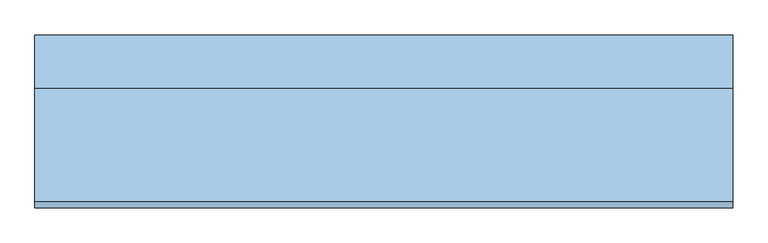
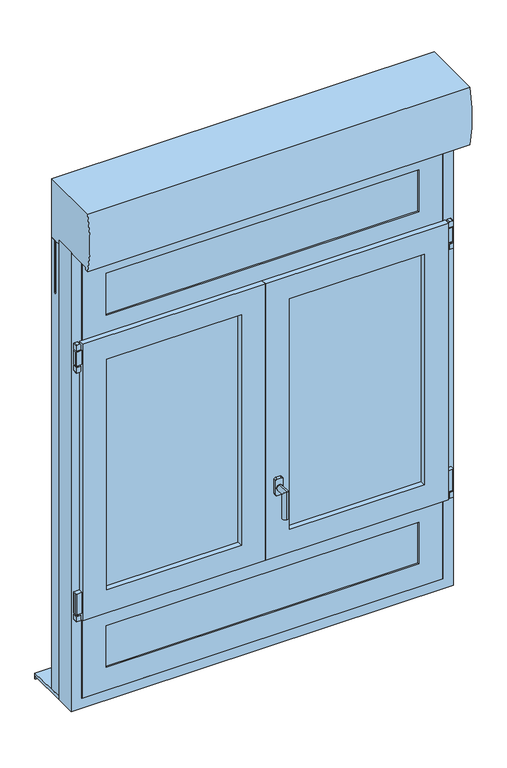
"""IFC4 building model written with IfcOpenShell, lengths in millimetres: window geometry, 11. OF2 ENR + 2 Fixes en B et en H PVC-ALU : OF2 130X165 (LXH) cm + 2 Fixes en B et H."""

from ifc_helpers import new_model, si_unit, point, frame, frame_2d, origin, place, context, project, spatial, polyline, circle_curve, ellipse_curve, trimmed, segment, composite_curve, outline, extrude, faceted_brep, source, transform, mapped, element, save
from ifc_brep_helpers import plane_surface, cylinder_surface, advanced_brep


def window_0c8a83d3(model_context):
    return source(origin(), model_context, "Body", "SolidModel", [
        extrude(outline(composite_curve([segment(polyline([(2101.4458412, 626.56), (2101.4458412, 641.56), (2119.4522243, 641.56)]), True, "CONTINUOUS"), segment(trimmed(circle_curve(frame_2d((2119.4522243, 639.5663831)), 1.9936169), [point((2119.4522243, 641.56))], [point((2121.4458412, 639.5663831))], False, "CARTESIAN"), True, "CONTINUOUS"), segment(polyline([(2121.4458412, 639.5663831), (2121.4458412, 628.5276754)]), True, "CONTINUOUS"), segment(trimmed(circle_curve(frame_2d((2119.4781657, 628.5276754)), 1.9676754), [point((2121.4458412, 628.5276754))], [point((2119.4781657, 626.56))], False, "CARTESIAN"), True, "CONTINUOUS"), segment(polyline([(2119.4781657, 626.56), (2101.4458412, 626.56)]), True, "CONTINUOUS")], self_intersect=False)), frame((0.0, -115.0338923, 0.0), z_axis=(0.0, 1.0, 0.0), x_axis=(0.0, 0.0, 1.0)), (0.0, 0.0, 1.0), 15.0),
        extrude(outline(composite_curve([segment(trimmed(circle_curve(frame_2d((634.2805562, -107.5434807)), 5.0), [point((629.2805562, -107.5434807))], [point((639.2805562, -107.5434807))], False, "CARTESIAN"), True, "CONTINUOUS"), segment(trimmed(circle_curve(frame_2d((634.2805562, -107.5434807)), 5.0), [point((639.2805562, -107.5434807))], [point((629.2805562, -107.5434807))], False, "CARTESIAN"), True, "CONTINUOUS")], self_intersect=False)), frame((0.0, 0.0, 2041.4458412), z_axis=(0.0, 0.0, 1.0), x_axis=(1.0, 0.0, 0.0)), (0.0, 0.0, 1.0), 60.0),
        extrude(outline(composite_curve([segment(polyline([(621.56, -100.0434807), (639.6018237, -100.0434807)]), True, "CONTINUOUS"), segment(trimmed(circle_curve(frame_2d((639.6018237, -102.001657)), 1.9581763), [point((639.6018237, -100.0434807))], [point((641.56, -102.001657))], False, "CARTESIAN"), True, "CONTINUOUS"), segment(polyline([(641.56, -102.001657), (641.56, -113.0253033)]), True, "CONTINUOUS"), segment(trimmed(circle_curve(frame_2d((639.5418225, -113.0253033)), 2.0181775), [point((641.56, -113.0253033))], [point((639.5418225, -115.0434807))], False, "CARTESIAN"), True, "CONTINUOUS"), segment(polyline([(639.5418225, -115.0434807), (621.56, -115.0434807), (621.56, -100.0434807)]), True, "CONTINUOUS")], self_intersect=False)), frame((0.0, 0.0, 2047.172303), z_axis=(0.0, 0.0, 1.0), x_axis=(1.0, 0.0, 0.0)), (0.0, 0.0, 1.0), 50.0),
        extrude(outline(composite_curve([segment(polyline([(2042.172303, 641.7805562), (2042.172303, 626.7805562), (2024.1815527, 626.7805562)]), True, "CONTINUOUS"), segment(trimmed(circle_curve(frame_2d((2024.1815527, 628.7898059)), 2.0092498), [point((2024.1815527, 626.7805562))], [point((2022.172303, 628.7898059))], False, "CARTESIAN"), True, "CONTINUOUS"), segment(polyline([(2022.172303, 628.7898059), (2022.172303, 640.1303507)]), True, "CONTINUOUS"), segment(trimmed(circle_curve(frame_2d((2024.1459724, 639.8068867)), 2.0), [point((2022.172303, 640.1303507))], [point((2023.8225084, 641.7805562))], False, "CARTESIAN"), True, "CONTINUOUS"), segment(polyline([(2023.8225084, 641.7805562), (2042.172303, 641.7805562)]), True, "CONTINUOUS")], self_intersect=False)), frame((0.0, -115.0338923, 0.0), z_axis=(0.0, 1.0, 0.0), x_axis=(0.0, 0.0, 1.0)), (0.0, 0.0, 1.0), 15.0),
        extrude(outline(composite_curve([segment(trimmed(circle_curve(frame_2d((634.2805562, -107.5434807)), 5.0), [point((629.2805562, -107.5434807))], [point((639.2805562, -107.5434807))], False, "CARTESIAN"), True, "CONTINUOUS"), segment(trimmed(circle_curve(frame_2d((634.2805562, -107.5434807)), 5.0), [point((639.2805562, -107.5434807))], [point((629.2805562, -107.5434807))], False, "CARTESIAN"), True, "CONTINUOUS")], self_intersect=False)), frame((0.0, 0.0, 1148.448), z_axis=(0.0, 0.0, 1.0), x_axis=(1.0, 0.0, 0.0)), (0.0, 0.0, 1.0), 5.0),
        extrude(outline(composite_curve([segment(polyline([(1148.448, 641.7805562), (1148.448, 626.7805562), (1130.4572498, 626.7805562)]), True, "CONTINUOUS"), segment(trimmed(circle_curve(frame_2d((1130.4572498, 628.7898059)), 2.0092498), [point((1130.4572498, 626.7805562))], [point((1128.448, 628.7898059))], False, "CARTESIAN"), True, "CONTINUOUS"), segment(polyline([(1128.448, 628.7898059), (1128.448, 640.1303507)]), True, "CONTINUOUS"), segment(trimmed(circle_curve(frame_2d((1130.4216694, 639.8068867)), 2.0), [point((1128.448, 640.1303507))], [point((1130.0982054, 641.7805562))], False, "CARTESIAN"), True, "CONTINUOUS"), segment(polyline([(1130.0982054, 641.7805562), (1148.448, 641.7805562)]), True, "CONTINUOUS")], self_intersect=False)), frame((0.0, -115.0338923, 0.0), z_axis=(0.0, 1.0, 0.0), x_axis=(0.0, 0.0, 1.0)), (0.0, 0.0, 1.0), 15.0),
        extrude(outline(composite_curve([segment(polyline([(621.56, -100.0434807), (639.6018237, -100.0434807)]), True, "CONTINUOUS"), segment(trimmed(circle_curve(frame_2d((639.6018237, -102.001657)), 1.9581763), [point((639.6018237, -100.0434807))], [point((641.56, -102.001657))], False, "CARTESIAN"), True, "CONTINUOUS"), segment(polyline([(641.56, -102.001657), (641.56, -113.0253033)]), True, "CONTINUOUS"), segment(trimmed(circle_curve(frame_2d((639.5418225, -113.0253033)), 2.0181775), [point((641.56, -113.0253033))], [point((639.5418225, -115.0434807))], False, "CARTESIAN"), True, "CONTINUOUS"), segment(polyline([(639.5418225, -115.0434807), (621.56, -115.0434807), (621.56, -100.0434807)]), True, "CONTINUOUS")], self_intersect=False)), frame((0.0, 0.0, 1153.448), z_axis=(0.0, 0.0, 1.0), x_axis=(1.0, 0.0, 0.0)), (0.0, 0.0, 1.0), 75.0),
        extrude(outline(composite_curve([segment(polyline([(2101.4458412, -626.552), (2119.4781657, -626.552)]), True, "CONTINUOUS"), segment(trimmed(circle_curve(frame_2d((2119.4781657, -628.5196754)), 1.9676754), [point((2119.4781657, -626.552))], [point((2121.4458412, -628.5196754))], False, "CARTESIAN"), True, "CONTINUOUS"), segment(polyline([(2121.4458412, -628.5196754), (2121.4458412, -639.5583831)]), True, "CONTINUOUS"), segment(trimmed(circle_curve(frame_2d((2119.4522243, -639.5583831)), 1.9936169), [point((2121.4458412, -639.5583831))], [point((2119.4522243, -641.552))], False, "CARTESIAN"), True, "CONTINUOUS"), segment(polyline([(2119.4522243, -641.552), (2101.4458412, -641.552), (2101.4458412, -626.552)]), True, "CONTINUOUS")], self_intersect=False)), frame((0.0, -115.0338923, 0.0), z_axis=(0.0, 1.0, 0.0), x_axis=(0.0, 0.0, 1.0)), (0.0, 0.0, 1.0), 15.0),
        extrude(outline(composite_curve([segment(trimmed(circle_curve(frame_2d((-634.2725562, -107.5434807)), 5.0), [point((-629.2725562, -107.5434807))], [point((-639.2725562, -107.5434807))], False, "CARTESIAN"), True, "CONTINUOUS"), segment(trimmed(circle_curve(frame_2d((-634.2725562, -107.5434807)), 5.0), [point((-639.2725562, -107.5434807))], [point((-629.2725562, -107.5434807))], False, "CARTESIAN"), True, "CONTINUOUS")], self_intersect=False)), frame((0.0, 0.0, 2041.4458412), z_axis=(0.0, 0.0, 1.0), x_axis=(1.0, 0.0, 0.0)), (0.0, 0.0, 1.0), 60.0),
        extrude(outline(composite_curve([segment(polyline([(-621.552, -100.0434807), (-621.552, -115.0434807), (-639.5338225, -115.0434807)]), True, "CONTINUOUS"), segment(trimmed(circle_curve(frame_2d((-639.5338225, -113.0253033)), 2.0181775), [point((-639.5338225, -115.0434807))], [point((-641.552, -113.0253033))], False, "CARTESIAN"), True, "CONTINUOUS"), segment(polyline([(-641.552, -113.0253033), (-641.552, -102.001657)]), True, "CONTINUOUS"), segment(trimmed(circle_curve(frame_2d((-639.5938237, -102.001657)), 1.9581763), [point((-641.552, -102.001657))], [point((-639.5938237, -100.0434807))], False, "CARTESIAN"), True, "CONTINUOUS"), segment(polyline([(-639.5938237, -100.0434807), (-621.552, -100.0434807)]), True, "CONTINUOUS")], self_intersect=False)), frame((0.0, 0.0, 2047.172303), z_axis=(0.0, 0.0, 1.0), x_axis=(1.0, 0.0, 0.0)), (0.0, 0.0, 1.0), 50.0),
        extrude(outline(composite_curve([segment(polyline([(2042.172303, -641.7725562), (2023.8225084, -641.7725562)]), True, "CONTINUOUS"), segment(trimmed(circle_curve(frame_2d((2024.1459724, -639.7988867)), 2.0), [point((2023.8225084, -641.7725562))], [point((2022.172303, -640.1223507))], False, "CARTESIAN"), True, "CONTINUOUS"), segment(polyline([(2022.172303, -640.1223507), (2022.172303, -628.7818059)]), True, "CONTINUOUS"), segment(trimmed(circle_curve(frame_2d((2024.1815527, -628.7818059)), 2.0092498), [point((2022.172303, -628.7818059))], [point((2024.1815527, -626.7725562))], False, "CARTESIAN"), True, "CONTINUOUS"), segment(polyline([(2024.1815527, -626.7725562), (2042.172303, -626.7725562), (2042.172303, -641.7725562)]), True, "CONTINUOUS")], self_intersect=False)), frame((0.0, -115.0338923, 0.0), z_axis=(0.0, 1.0, 0.0), x_axis=(0.0, 0.0, 1.0)), (0.0, 0.0, 1.0), 15.0),
        extrude(outline(composite_curve([segment(trimmed(circle_curve(frame_2d((-634.2725562, -107.5434807)), 5.0), [point((-629.2725562, -107.5434807))], [point((-639.2725562, -107.5434807))], False, "CARTESIAN"), True, "CONTINUOUS"), segment(trimmed(circle_curve(frame_2d((-634.2725562, -107.5434807)), 5.0), [point((-639.2725562, -107.5434807))], [point((-629.2725562, -107.5434807))], False, "CARTESIAN"), True, "CONTINUOUS")], self_intersect=False)), frame((0.0, 0.0, 1148.448), z_axis=(0.0, 0.0, 1.0), x_axis=(1.0, 0.0, 0.0)), (0.0, 0.0, 1.0), 5.0),
        extrude(outline(composite_curve([segment(polyline([(1148.448, -641.7725562), (1130.0982054, -641.7725562)]), True, "CONTINUOUS"), segment(trimmed(circle_curve(frame_2d((1130.4216694, -639.7988867)), 2.0), [point((1130.0982054, -641.7725562))], [point((1128.448, -640.1223507))], False, "CARTESIAN"), True, "CONTINUOUS"), segment(polyline([(1128.448, -640.1223507), (1128.448, -628.7818059)]), True, "CONTINUOUS"), segment(trimmed(circle_curve(frame_2d((1130.4572498, -628.7818059)), 2.0092498), [point((1128.448, -628.7818059))], [point((1130.4572498, -626.7725562))], False, "CARTESIAN"), True, "CONTINUOUS"), segment(polyline([(1130.4572498, -626.7725562), (1148.448, -626.7725562), (1148.448, -641.7725562)]), True, "CONTINUOUS")], self_intersect=False)), frame((0.0, -115.0338923, 0.0), z_axis=(0.0, 1.0, 0.0), x_axis=(0.0, 0.0, 1.0)), (0.0, 0.0, 1.0), 15.0),
        extrude(outline(composite_curve([segment(polyline([(-621.552, -100.0434807), (-621.552, -115.0434807), (-639.5338225, -115.0434807)]), True, "CONTINUOUS"), segment(trimmed(circle_curve(frame_2d((-639.5338225, -113.0253033)), 2.0181775), [point((-639.5338225, -115.0434807))], [point((-641.552, -113.0253033))], False, "CARTESIAN"), True, "CONTINUOUS"), segment(polyline([(-641.552, -113.0253033), (-641.552, -102.001657)]), True, "CONTINUOUS"), segment(trimmed(circle_curve(frame_2d((-639.5938237, -102.001657)), 1.9581763), [point((-641.552, -102.001657))], [point((-639.5938237, -100.0434807))], False, "CARTESIAN"), True, "CONTINUOUS"), segment(polyline([(-639.5938237, -100.0434807), (-621.552, -100.0434807)]), True, "CONTINUOUS")], self_intersect=False)), frame((0.0, 0.0, 1153.448), z_axis=(0.0, 0.0, 1.0), x_axis=(1.0, 0.0, 0.0)), (0.0, 0.0, 1.0), 75.0),
        faceted_brep([(649.992, -28.9, 2450.0), (649.992, -100.02, 2450.0), (649.992, -100.02, 800.0), (649.992, -28.9, 800.0), (-650.008, -100.02, 2450.0), (-650.008, -100.02, 800.0), (613.416, -100.02, 836.576), (-613.432, -100.02, 836.576), (-613.432, -100.02, 2413.424), (613.416, -100.02, 2413.424), (-650.008, -28.9, 800.0), (-650.008, -28.9, 2450.0), (592.0903858, -28.9, 2392.0983858), (-592.1063858, -28.9, 2392.0983858), (-592.1063858, -28.9, 857.9016142), (592.0903858, -28.9, 857.9016142), (613.416, -44.648, 2413.424), (613.416, -44.648, 836.576), (-613.432, -44.648, 2413.424), (-613.432, -44.648, 836.576), (592.0903858, -44.648, 857.9016142), (-592.1063858, -44.648, 857.9016142), (-592.1063858, -44.648, 2392.0983858), (592.0903858, -44.648, 2392.0983858)], [[[0, 1, 2, 3]], [[1, 4, 5, 2], [6, 7, 8, 9]], [[3, 2, 5, 10]], [[3, 10, 11, 0], [12, 13, 14, 15]], [[9, 16, 17, 6]], [[16, 18, 19, 17], [20, 21, 22, 23]], [[6, 17, 19, 7]], [[23, 12, 15, 20]], [[20, 15, 14, 21]], [[10, 5, 4, 11]], [[7, 19, 18, 8]], [[21, 14, 13, 22]], [[11, 4, 1, 0]], [[8, 18, 16, 9]], [[22, 13, 12, 23]]]),
        faceted_brep([(-650.0, -100.02, 2450.0), (-650.0, -28.9, 2450.0), (-650.0, -28.9, 800.0), (-650.0, -100.02, 800.0), (650.0, -28.9, 2450.0), (650.0, -28.9, 800.0), (-592.0983858, -28.9, 857.9016142), (592.0983858, -28.9, 857.9016142), (592.0983858, -28.9, 2392.0983858), (-592.0983858, -28.9, 2392.0983858), (650.0, -100.02, 800.0), (650.0, -100.02, 2450.0), (-613.424, -100.02, 2413.424), (613.424, -100.02, 2413.424), (613.424, -100.02, 836.576), (-613.424, -100.02, 836.576), (-613.424, -44.648, 2413.424), (-613.424, -44.648, 836.576), (613.424, -44.648, 836.576), (613.424, -44.648, 2413.424), (-592.0983858, -44.648, 2392.0983858), (592.0983858, -44.648, 2392.0983858), (592.0983858, -44.648, 857.9016142), (-592.0983858, -44.648, 857.9016142)], [[[0, 1, 2, 3]], [[1, 4, 5, 2], [6, 7, 8, 9]], [[3, 2, 5, 10]], [[3, 10, 11, 0], [12, 13, 14, 15]], [[16, 12, 15, 17]], [[17, 15, 14, 18]], [[17, 18, 19, 16], [20, 21, 22, 23]], [[9, 20, 23, 6]], [[6, 23, 22, 7]], [[10, 5, 4, 11]], [[18, 14, 13, 19]], [[7, 22, 21, 8]], [[11, 4, 1, 0]], [[19, 13, 12, 16]], [[8, 21, 20, 9]]]),
        extrude(outline(composite_curve([segment(polyline([(-186.3991192, 2440.3409737), (-197.3316724, 2440.3409737)]), True, "CONTINUOUS"), segment(trimmed(circle_curve(frame_2d((189.1050523, 2543.6204869)), 400.0), [point((-197.3316724, 2440.3409737))], [point((-197.3316724, 2646.9))], False, "CARTESIAN"), True, "CONTINUOUS"), segment(polyline([(-197.3316724, 2646.9), (13.0999994, 2646.9), (13.0999994, 2436.0216226), (-4.9499979, 2436.0216226), (-4.9499979, 2434.2216225), (-2.7215215, 2434.2216225), (-2.7215215, 2409.9791617), (-4.9499979, 2409.9791617), (-4.9499979, 2408.1791616), (-2.7215215, 2408.1791616), (-2.7215215, 2383.9367008), (-4.9499979, 2383.9367008), (-4.9499979, 2382.1367006), (-2.7215215, 2382.1367006), (-2.7215215, 2357.8942398), (-4.9499979, 2357.8942398), (-4.9499979, 2356.0942397), (-2.7215215, 2356.0942397), (-2.7215215, 2331.8517789), (-4.9499979, 2331.8517789), (-4.9499979, 2330.0517788), (-2.7215215, 2330.0517788), (-2.7215215, 2305.809318), (-4.9499979, 2305.809318), (-4.9499979, 2304.0093179), (-2.7215215, 2304.0093179), (-2.7215215, 2279.7668571), (-4.9499979, 2279.7668571), (-4.9499979, 2277.966857), (-2.7215215, 2277.966857), (-2.7215215, 2253.7243961), (-4.9499979, 2253.7243961), (-4.9499979, 2251.9243963), (-3.044091, 2251.9243963), (-3.044091, 2248.977424), (-6.4, 2245.6232688), (-9.8999992, 2248.9774251), (-9.8999992, 2251.9243963), (-7.7499979, 2251.9243963), (-7.7499979, 2253.7243961), (-9.9999979, 2253.7243961), (-9.9999979, 2277.9668572), (-7.7499979, 2277.9668572), (-7.7499979, 2279.7668571), (-9.9999979, 2279.7668571), (-9.9999979, 2304.0093181), (-7.7499979, 2304.0093181), (-7.7499979, 2305.809318), (-9.9999979, 2305.809318), (-9.9999979, 2330.051779), (-7.7499979, 2330.051779), (-7.7499979, 2331.8517789), (-9.9999979, 2331.8517789), (-9.9999979, 2356.09424), (-7.7499979, 2356.09424), (-7.7499979, 2357.8942398), (-9.9999979, 2357.8942398), (-9.9999979, 2382.1367009), (-7.7499979, 2382.1367009), (-7.7499979, 2383.9367008), (-9.9999979, 2383.9367008), (-9.9999979, 2408.1791618), (-7.7499979, 2408.1791618), (-7.7499979, 2409.9791617), (-9.9999979, 2409.9791617), (-9.9999979, 2434.2216227), (-7.7499979, 2434.2216227), (-7.7499979, 2436.0216226), (-28.9, 2436.0216226), (-28.9, 2450.0), (-186.3991192, 2450.0), (-186.3991192, 2440.3409737)]), True, "CONTINUOUS")], self_intersect=False)), frame((-650.008, 0.0, 0.0), z_axis=(1.0, 0.0, 0.0), x_axis=(0.0, 1.0, 0.0)), (0.0, 0.0, 1.0), 1300.008),
        advanced_brep(
        [(41.6731873, -129.3239543, 1392.2518349), (41.6731873, -129.3239543, 1372.2518349), (41.6731873, -133.0531938, 1372.2518349), (41.6731873, -133.0531938, 1392.2518349), (41.6731873, -173.0531938, 1392.2518349), (41.6731873, -153.0531938, 1372.2518349), (41.6731873, -173.0531938, 1292.2518349), (41.6731873, -153.0531938, 1292.2518349)],
        [
            (0, 1, circle_curve(frame((41.6731873, -129.3239543, 1382.2518349), z_axis=(0.0, 1.0, 0.0), x_axis=(0.0, 0.0, -1.0)), 10.0)),
            (1, 0, circle_curve(frame((41.6731873, -129.3239543, 1382.2518349), z_axis=(0.0, 1.0, 0.0), x_axis=(0.0, 0.0, -1.0)), 10.0)),
            (2, 3, circle_curve(frame((41.6731873, -133.0531938, 1382.2518349), z_axis=(0.0, -1.0, 0.0), x_axis=(0.0, 0.0, -1.0)), 10.0)),
            (3, 4),
            (4, 5, ellipse_curve(frame((41.6731873, -163.0531938, 1382.2518349), z_axis=(0.0, 0.7071067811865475, 0.7071067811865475), x_axis=(0.0, 0.7071067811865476, -0.7071067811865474)), 14.1421356, 10.0)),
            (5, 2),
            (3, 2, circle_curve(frame((41.6731873, -133.0531938, 1382.2518349), z_axis=(0.0, -1.0, 0.0), x_axis=(0.0, 0.0, -1.0)), 10.0)),
            (5, 4, ellipse_curve(frame((41.6731873, -163.0531938, 1382.2518349), z_axis=(0.0, 0.7071067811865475, 0.7071067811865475), x_axis=(0.0, 0.7071067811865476, -0.7071067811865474)), 14.1421356, 10.0)),
            (6, 7, circle_curve(frame((41.6731873, -163.0531938, 1292.2518349), z_axis=(0.0, 0.0, -1.0), x_axis=(0.0, 1.0, 0.0)), 10.0)),
            (7, 6, circle_curve(frame((41.6731873, -163.0531938, 1292.2518349), z_axis=(0.0, 0.0, -1.0), x_axis=(0.0, 1.0, 0.0)), 10.0)),
            (4, 6),
            (7, 5),
            (0, 3),
            (2, 1),
        ],
        [
            plane_surface(frame((53.896, -129.3239543, 1382.2518349), z_axis=(0.0, 1.0, 0.0), x_axis=(1.0, 0.0, 0.0))),
            cylinder_surface(frame((41.6731873, -133.0531938, 1382.2518349), z_axis=(0.0, 1.0, 0.0), x_axis=(0.0, 0.0, -1.0)), 10.0),
            plane_surface(frame((53.896, -163.0531938, 1292.2518349), z_axis=(0.0, 0.0, -1.0), x_axis=(1.0, 0.0, 0.0))),
            cylinder_surface(frame((41.6731873, -163.0531938, 1382.2518349), z_axis=(0.0, 0.0, 1.0), x_axis=(0.0, 1.0, 0.0)), 10.0),
            cylinder_surface(frame((41.6731873, -129.3239543, 1382.2518349), z_axis=(0.0, 1.0, 0.0), x_axis=(0.0, 0.0, -1.0)), 10.0),
        ],
        [
            (0, [[1, 2]]),
            (1, [[3, 4, 5, 6]]),
            (1, [[7, -6, 8, -4]]),
            (2, [[9, 10]]),
            (3, [[-5, 11, -10, 12]]),
            (3, [[-8, -12, -9, -11]]),
            (4, [[-1, 13, -3, 14]]),
            (4, [[-2, -14, -7, -13]]),
        ],
    ),
        extrude(outline(composite_curve([segment(polyline([(1414.448, 48.896), (1414.448, 33.896)]), True, "CONTINUOUS"), segment(trimmed(circle_curve(frame_2d((1409.448, 33.896)), 5.0), [point((1414.448, 33.896))], [point((1409.448, 28.896))], False, "CARTESIAN"), True, "CONTINUOUS"), segment(polyline([(1409.448, 28.896), (1359.448, 28.896)]), True, "CONTINUOUS"), segment(trimmed(circle_curve(frame_2d((1359.448, 33.896)), 5.0), [point((1359.448, 28.896))], [point((1354.448, 33.896))], False, "CARTESIAN"), True, "CONTINUOUS"), segment(polyline([(1354.448, 33.896), (1354.448, 48.896)]), True, "CONTINUOUS"), segment(trimmed(circle_curve(frame_2d((1359.448, 48.896)), 5.0), [point((1354.448, 48.896))], [point((1359.448, 53.896))], False, "CARTESIAN"), True, "CONTINUOUS"), segment(polyline([(1359.448, 53.896), (1409.448, 53.896)]), True, "CONTINUOUS"), segment(trimmed(circle_curve(frame_2d((1409.448, 48.896)), 5.0), [point((1409.448, 53.896))], [point((1414.448, 48.896))], False, "CARTESIAN"), True, "CONTINUOUS")], self_intersect=False)), frame((0.0, -129.3239543, 0.0), z_axis=(0.0, 1.0, 0.0), x_axis=(0.0, 0.0, 1.0)), (0.0, 0.0, 1.0), 10.0),
        extrude(outline(polyline([(-28.9, 800.0), (-28.9, 812.9639252), (113.0, 809.77529), (113.0, 790.0), (110.0, 790.0), (110.0, 800.0), (-28.9, 800.0)])), frame((-650.0, 0.0, 0.0), z_axis=(1.0, 0.0, 0.0), x_axis=(0.0, 1.0, 0.0)), (0.0, 0.0, 1.0), 1300.0),
        extrude(outline(polyline([(-649.008, -28.9), (-650.008, -28.9), (-650.008, 13.1), (-649.008, 13.1), (-649.008, 2.1), (-629.008, 2.1), (-629.008, -0.9), (-649.008, -0.9), (-649.008, -11.9), (-629.008, -11.9), (-629.008, -14.9), (-649.008, -14.9), (-649.008, -28.9)])), frame((0.0, 0.0, 812.9639252), z_axis=(0.0, 0.0, 1.0), x_axis=(1.0, 0.0, 0.0)), (0.0, 0.0, 1.0), 1623.1),
        extrude(outline(polyline([(649.0, -28.9), (649.0, -14.9), (629.0, -14.9), (629.0, -11.9), (649.0, -11.9), (649.0, -0.9), (629.0, -0.9), (629.0, 2.1), (649.0, 2.1), (649.0, 13.1), (650.0, 13.1), (650.0, -28.9), (649.0, -28.9)])), frame((0.0, 0.0, 812.9639252), z_axis=(0.0, 0.0, 1.0), x_axis=(1.0, 0.0, 0.0)), (0.0, 0.0, 1.0), 1623.1),
        extrude(outline(polyline([(545.3, -91.36618), (545.3, -95.36618), (-545.3, -95.36618), (-545.3, -91.36618), (545.3, -91.36618)])), frame((0.0, 0.0, 904.6913195), z_axis=(0.0, 0.0, 1.0), x_axis=(1.0, 0.0, 0.0)), (0.0, 0.0, 1.0), 177.9669753),
        extrude(outline(polyline([(545.3, -67.36618), (545.3, -71.36618), (-545.3, -71.36618), (-545.3, -67.36618), (545.3, -67.36618)])), frame((0.0, 0.0, 904.6913195), z_axis=(0.0, 0.0, 1.0), x_axis=(1.0, 0.0, 0.0)), (0.0, 0.0, 1.0), 177.9669753),
        faceted_brep([(-613.5086805, -100.96618, 836.4913195), (-613.5086805, -44.56618, 836.4913195), (613.5086805, -44.56618, 836.4913195), (613.5086805, -100.96618, 836.4913195), (613.5086805, -44.56618, 1150.8582947), (613.5086805, -100.96618, 1150.8582947), (-613.5086805, -44.56618, 1150.8582947), (531.4086805, -44.56618, 1068.7582947), (-531.4086805, -44.56618, 1068.7582947), (-531.4086805, -44.56618, 918.5913195), (531.4086805, -44.56618, 918.5913195), (-613.5086805, -100.96618, 1150.8582947), (531.4086805, -100.96618, 918.5913195), (-531.4086805, -100.96618, 918.5913195), (-531.4086805, -100.96618, 1068.7582947), (531.4086805, -100.96618, 1068.7582947), (-531.4086805, -95.36618, 918.5913195), (531.4086805, -95.36618, 918.5913195), (531.4086805, -95.36618, 1068.7582947), (545.3086805, -95.36618, 904.6913195), (-545.3086805, -95.36618, 904.6913195), (-545.3086805, -95.36618, 1082.6582947), (545.3086805, -95.36618, 1082.6582947), (-531.4086805, -95.36618, 1068.7582947), (-545.3086805, -91.36618, 904.6913195), (545.3086805, -91.36618, 904.6913195), (545.3086805, -91.36618, 1082.6582947), (-545.3086805, -91.36618, 1082.6582947), (531.4086805, -91.36618, 918.5913195), (-531.4086805, -91.36618, 918.5913195), (-531.4086805, -91.36618, 1068.7582947), (531.4086805, -91.36618, 1068.7582947), (-531.4086805, -71.36618, 918.5913195), (531.4086805, -71.36618, 918.5913195), (531.4086805, -71.36618, 1068.7582947), (545.3086805, -71.36618, 904.6913195), (-545.3086805, -71.36618, 904.6913195), (-545.3086805, -71.36618, 1082.6582947), (545.3086805, -71.36618, 1082.6582947), (-531.4086805, -71.36618, 1068.7582947), (-545.3086805, -67.36618, 904.6913195), (545.3086805, -67.36618, 904.6913195), (545.3086805, -67.36618, 1082.6582947), (-545.3086805, -67.36618, 1082.6582947), (531.4086805, -67.36618, 918.5913195), (-531.4086805, -67.36618, 918.5913195), (-531.4086805, -67.36618, 1068.7582947), (531.4086805, -67.36618, 1068.7582947)], [[[0, 1, 2, 3]], [[3, 2, 4, 5]], [[2, 1, 6, 4], [7, 8, 9, 10]], [[5, 11, 0, 3], [12, 13, 14, 15]], [[16, 13, 12, 17]], [[17, 12, 15, 18]], [[19, 20, 21, 22], [18, 23, 16, 17]], [[24, 20, 19, 25]], [[25, 19, 22, 26]], [[26, 27, 24, 25], [28, 29, 30, 31]], [[32, 29, 28, 33]], [[33, 28, 31, 34]], [[35, 36, 37, 38], [34, 39, 32, 33]], [[40, 36, 35, 41]], [[41, 35, 38, 42]], [[42, 43, 40, 41], [44, 45, 46, 47]], [[9, 45, 44, 10]], [[10, 44, 47, 7]], [[11, 6, 1, 0]], [[23, 14, 13, 16]], [[27, 21, 20, 24]], [[39, 30, 29, 32]], [[43, 37, 36, 40]], [[8, 46, 45, 9]], [[5, 4, 6, 11]], [[18, 15, 14, 23]], [[26, 22, 21, 27]], [[34, 31, 30, 39]], [[42, 38, 37, 43]], [[7, 47, 46, 8]]]),
        extrude(outline(polyline([(553.408, -96.019954), (553.408, -100.019954), (68.108, -100.019954), (68.108, -96.019954), (553.408, -96.019954)])), frame((0.0, 0.0, 1196.5824883), z_axis=(0.0, 0.0, 1.0), x_axis=(1.0, 0.0, 0.0)), (0.0, 0.0, 1.0), 856.8350233),
        extrude(outline(polyline([(553.408, -68.9786213), (553.408, -72.9786213), (68.108, -72.9786213), (68.108, -68.9786213), (553.408, -68.9786213)])), frame((0.0, 0.0, 1196.5824883), z_axis=(0.0, 0.0, 1.0), x_axis=(1.0, 0.0, 0.0)), (0.0, 0.0, 1.0), 856.8350233),
        extrude(outline(polyline([(553.408, -41.9786213), (553.408, -45.9786213), (68.108, -45.9786213), (68.108, -41.9786213), (553.408, -41.9786213)])), frame((0.0, 0.0, 1196.5824883), z_axis=(0.0, 0.0, 1.0), x_axis=(1.0, 0.0, 0.0)), (0.0, 0.0, 1.0), 856.8350233),
        faceted_brep([(561.6166701, -48.2039543, 2061.6086701), (561.6166701, -100.019954, 2061.6086701), (561.6166701, -100.019954, 1188.3913299), (561.6166701, -48.2039543, 1188.3913299), (586.5594701, -28.7475756, 2086.5514701), (586.5594701, -48.2039543, 2086.5514701), (586.5594701, -48.2039543, 1163.4485299), (586.5594701, -28.7475756, 1163.4485299), (535.3473386, -41.9786213, 2035.3393386), (535.3473386, -28.7475756, 2035.3393386), (535.3473386, -28.7475756, 1214.6606614), (535.3473386, -41.9786213, 1214.6606614), (539.5320492, -96.019954, 2039.5240492), (539.5320492, -72.9786213, 2039.5240492), (539.5320492, -72.9786213, 1210.4759508), (539.5320492, -96.019954, 1210.4759508), (59.9473299, -100.019954, 1188.3913299), (59.9473299, -48.2039543, 1188.3913299), (35.0045299, -48.2039543, 1163.4485299), (35.0045299, -28.7475756, 1163.4485299), (86.2166614, -28.7475756, 1214.6606614), (86.2166614, -41.9786213, 1214.6606614), (82.0319508, -72.9786213, 1210.4759508), (82.0319508, -96.019954, 1210.4759508), (59.9473299, -100.019954, 2061.6086701), (59.9473299, -48.2039543, 2061.6086701), (35.0045299, -48.2039543, 2086.5514701), (35.0045299, -28.7475756, 2086.5514701), (86.2166614, -28.7475756, 2035.3393386), (86.2166614, -41.9786213, 2035.3393386), (82.0319508, -72.9786213, 2039.5240492), (82.0319508, -96.019954, 2039.5240492), (553.4255117, -100.019954, 1196.5824883), (68.1384883, -100.019954, 1196.5824883), (68.1384883, -100.019954, 2053.4175117), (553.4255117, -100.019954, 2053.4175117), (553.4255117, -72.9786213, 1196.5824883), (68.1384883, -72.9786213, 1196.5824883), (68.1384883, -72.9786213, 2053.4175117), (553.4255117, -72.9786213, 2053.4175117), (553.4255117, -96.019954, 2053.4175117), (553.4255117, -96.019954, 1196.5824883), (553.4255117, -68.9786213, 2053.4175117), (553.4255117, -68.9786213, 1196.5824883), (68.1384883, -96.019954, 1196.5824883), (68.1384883, -68.9786213, 1196.5824883), (68.1384883, -96.019954, 2053.4175117), (68.1384883, -68.9786213, 2053.4175117), (536.2054041, -68.9786213, 1213.8025959), (85.3585959, -68.9786213, 1213.8025959), (85.3585959, -68.9786213, 2036.1974041), (536.2054041, -68.9786213, 2036.1974041), (553.4255117, -45.9786213, 2053.4175117), (553.4255117, -41.9786213, 2053.4175117), (553.4255117, -41.9786213, 1196.5824883), (553.4255117, -45.9786213, 1196.5824883), (536.2054041, -45.9786213, 2036.1974041), (536.2054041, -45.9786213, 1213.8025959), (68.1384883, -41.9786213, 1196.5824883), (68.1384883, -45.9786213, 1196.5824883), (85.3585959, -45.9786213, 1213.8025959), (68.1384883, -41.9786213, 2053.4175117), (68.1384883, -45.9786213, 2053.4175117), (85.3585959, -45.9786213, 2036.1974041)], [[[0, 1, 2, 3]], [[4, 5, 6, 7]], [[8, 9, 10, 11]], [[12, 13, 14, 15]], [[3, 2, 16, 17]], [[7, 6, 18, 19]], [[11, 10, 20, 21]], [[15, 14, 22, 23]], [[17, 16, 24, 25]], [[19, 18, 26, 27]], [[21, 20, 28, 29]], [[23, 22, 30, 31]], [[1, 24, 16, 2], [32, 33, 34, 35]], [[25, 24, 1, 0]], [[5, 26, 18, 6], [3, 17, 25, 0]], [[27, 26, 5, 4]], [[7, 19, 27, 4], [9, 28, 20, 10]], [[29, 28, 9, 8]], [[36, 37, 38, 39], [13, 30, 22, 14]], [[31, 30, 13, 12]], [[35, 40, 41, 32]], [[39, 42, 43, 36]], [[32, 41, 44, 33]], [[36, 43, 45, 37]], [[33, 44, 46, 34]], [[37, 45, 47, 38]], [[40, 46, 44, 41], [15, 23, 31, 12]], [[34, 46, 40, 35]], [[42, 47, 45, 43], [48, 49, 50, 51]], [[38, 47, 42, 39]], [[52, 53, 54, 55]], [[51, 56, 57, 48]], [[55, 54, 58, 59]], [[48, 57, 60, 49]], [[59, 58, 61, 62]], [[49, 60, 63, 50]], [[53, 61, 58, 54], [11, 21, 29, 8]], [[62, 61, 53, 52]], [[55, 59, 62, 52], [56, 63, 60, 57]], [[50, 63, 56, 51]]]),
        faceted_brep([(0.004, -119.3239543, 2121.552), (0.004, -100.0434807, 2121.552), (0.004, -100.0434807, 1128.448), (0.004, -119.3239543, 1128.448), (82.2054957, -100.019954, 2039.3505043), (82.2054957, -119.3239543, 2039.3505043), (82.2054957, -119.3239543, 1210.6494957), (82.2054957, -100.019954, 1210.6494957), (59.9473299, -48.2039543, 2061.6086701), (59.9473299, -100.019954, 2061.6086701), (59.9473299, -100.019954, 1188.3913299), (59.9473299, -48.2039543, 1188.3913299), (29.4576142, -44.648, 2092.0983858), (29.4576142, -48.2039543, 2092.0983858), (29.4576142, -48.2039543, 1157.9016142), (29.4576142, -44.648, 1157.9016142), (20.324, -100.0434807, 2101.232), (20.324, -44.648, 2101.232), (20.324, -44.648, 1148.768), (20.324, -100.0434807, 1148.768), (621.56, -100.0434807, 1128.448), (621.56, -119.3239543, 1128.448), (539.3585043, -119.3239543, 1210.6494957), (539.3585043, -100.019954, 1210.6494957), (561.6166701, -100.019954, 1188.3913299), (561.6166701, -48.2039543, 1188.3913299), (592.1063858, -48.2039543, 1157.9016142), (592.1063858, -44.648, 1157.9016142), (601.24, -44.648, 1148.768), (601.24, -100.0434807, 1148.768), (621.56, -100.0434807, 2121.552), (621.56, -119.3239543, 2121.552), (539.3585043, -119.3239543, 2039.3505043), (539.3585043, -100.019954, 2039.3505043), (561.6166701, -100.019954, 2061.6086701), (561.6166701, -48.2039543, 2061.6086701), (592.1063858, -48.2039543, 2092.0983858), (592.1063858, -44.648, 2092.0983858), (601.24, -44.648, 2101.232), (601.24, -100.0434807, 2101.232)], [[[0, 1, 2, 3]], [[4, 5, 6, 7]], [[8, 9, 10, 11]], [[12, 13, 14, 15]], [[16, 17, 18, 19]], [[3, 2, 20, 21]], [[7, 6, 22, 23]], [[11, 10, 24, 25]], [[15, 14, 26, 27]], [[19, 18, 28, 29]], [[21, 20, 30, 31]], [[23, 22, 32, 33]], [[25, 24, 34, 35]], [[27, 26, 36, 37]], [[29, 28, 38, 39]], [[1, 30, 20, 2], [19, 29, 39, 16]], [[31, 30, 1, 0]], [[3, 21, 31, 0], [5, 32, 22, 6]], [[33, 32, 5, 4]], [[9, 34, 24, 10], [7, 23, 33, 4]], [[35, 34, 9, 8]], [[13, 36, 26, 14], [11, 25, 35, 8]], [[37, 36, 13, 12]], [[17, 38, 28, 18], [15, 27, 37, 12]], [[39, 38, 17, 16]]]),
        extrude(outline(polyline([(35.004, -44.7), (20.304, -44.7), (20.304, -100.3), (-20.296, -100.3), (-20.296, -44.7), (-34.996, -44.7), (-34.996, -28.9), (35.004, -28.9), (35.004, -44.7)])), frame((0.0, 0.0, 1150.8582947), z_axis=(0.0, 0.0, 1.0), x_axis=(1.0, 0.0, 0.0)), (0.0, 0.0, 1.0), 950.3),
        faceted_brep([(0.004, -100.0434807, 2121.552), (0.004, -119.3239543, 2121.552), (0.004, -119.3239543, 1128.448), (0.004, -100.0434807, 1128.448), (-82.1974957, -119.3239543, 2039.3505043), (-82.1974957, -100.019954, 2039.3505043), (-82.1974957, -100.019954, 1210.6494957), (-82.1974957, -119.3239543, 1210.6494957), (-59.9393299, -100.019954, 2061.6086701), (-59.9393299, -48.2039543, 2061.6086701), (-59.9393299, -48.2039543, 1188.3913299), (-59.9393299, -100.019954, 1188.3913299), (-29.4496142, -48.2039543, 2092.0983858), (-29.4496142, -44.648, 2092.0983858), (-29.4496142, -44.648, 1157.9016142), (-29.4496142, -48.2039543, 1157.9016142), (-20.316, -44.648, 2101.232), (-20.316, -100.0434807, 2101.232), (-20.316, -100.0434807, 1148.768), (-20.316, -44.648, 1148.768), (-621.552, -119.3239543, 1128.448), (-621.552, -100.0434807, 1128.448), (-539.3505043, -100.019954, 1210.6494957), (-539.3505043, -119.3239543, 1210.6494957), (-561.6086701, -48.2039543, 1188.3913299), (-561.6086701, -100.019954, 1188.3913299), (-592.0983858, -44.648, 1157.9016142), (-592.0983858, -48.2039543, 1157.9016142), (-601.232, -100.0434807, 1148.768), (-601.232, -44.648, 1148.768), (-621.552, -119.3239543, 2121.552), (-621.552, -100.0434807, 2121.552), (-539.3505043, -100.019954, 2039.3505043), (-539.3505043, -119.3239543, 2039.3505043), (-561.6086701, -48.2039543, 2061.6086701), (-561.6086701, -100.019954, 2061.6086701), (-592.0983858, -44.648, 2092.0983858), (-592.0983858, -48.2039543, 2092.0983858), (-601.232, -100.0434807, 2101.232), (-601.232, -44.648, 2101.232)], [[[0, 1, 2, 3]], [[4, 5, 6, 7]], [[8, 9, 10, 11]], [[12, 13, 14, 15]], [[16, 17, 18, 19]], [[3, 2, 20, 21]], [[7, 6, 22, 23]], [[11, 10, 24, 25]], [[15, 14, 26, 27]], [[19, 18, 28, 29]], [[21, 20, 30, 31]], [[23, 22, 32, 33]], [[25, 24, 34, 35]], [[27, 26, 36, 37]], [[29, 28, 38, 39]], [[3, 21, 31, 0], [17, 38, 28, 18]], [[31, 30, 1, 0]], [[1, 30, 20, 2], [7, 23, 33, 4]], [[33, 32, 5, 4]], [[11, 25, 35, 8], [5, 32, 22, 6]], [[35, 34, 9, 8]], [[15, 27, 37, 12], [9, 34, 24, 10]], [[37, 36, 13, 12]], [[19, 29, 39, 16], [13, 36, 26, 14]], [[39, 38, 17, 16]]]),
        faceted_brep([(-561.6086701, -100.019954, 2061.6086701), (-561.6086701, -48.2039543, 2061.6086701), (-561.6086701, -48.2039543, 1188.3913299), (-561.6086701, -100.019954, 1188.3913299), (-586.5514701, -48.2039543, 2086.5514701), (-586.5514701, -28.7475756, 2086.5514701), (-586.5514701, -28.7475756, 1163.4485299), (-586.5514701, -48.2039543, 1163.4485299), (-535.3393386, -28.7475756, 2035.3393386), (-535.3393386, -41.9786213, 2035.3393386), (-535.3393386, -41.9786213, 1214.6606614), (-535.3393386, -28.7475756, 1214.6606614), (-539.5240492, -72.9786213, 2039.5240492), (-539.5240492, -96.019954, 2039.5240492), (-539.5240492, -96.019954, 1210.4759508), (-539.5240492, -72.9786213, 1210.4759508), (-59.9393299, -48.2039543, 1188.3913299), (-59.9393299, -100.019954, 1188.3913299), (-34.9965299, -28.7475756, 1163.4485299), (-34.9965299, -48.2039543, 1163.4485299), (-86.2086614, -41.9786213, 1214.6606614), (-86.2086614, -28.7475756, 1214.6606614), (-82.0239508, -96.019954, 1210.4759508), (-82.0239508, -72.9786213, 1210.4759508), (-59.9393299, -48.2039543, 2061.6086701), (-59.9393299, -100.019954, 2061.6086701), (-34.9965299, -28.7475756, 2086.5514701), (-34.9965299, -48.2039543, 2086.5514701), (-86.2086614, -41.9786213, 2035.3393386), (-86.2086614, -28.7475756, 2035.3393386), (-82.0239508, -96.019954, 2039.5240492), (-82.0239508, -72.9786213, 2039.5240492), (-553.4175117, -100.019954, 2053.4175117), (-68.1304883, -100.019954, 2053.4175117), (-68.1304883, -100.019954, 1196.5824883), (-553.4175117, -100.019954, 1196.5824883), (-553.4175117, -72.9786213, 2053.4175117), (-68.1304883, -72.9786213, 2053.4175117), (-68.1304883, -72.9786213, 1196.5824883), (-553.4175117, -72.9786213, 1196.5824883), (-553.4175117, -96.019954, 2053.4175117), (-553.4175117, -96.019954, 1196.5824883), (-553.4175117, -68.9786213, 2053.4175117), (-553.4175117, -68.9786213, 1196.5824883), (-68.1304883, -96.019954, 1196.5824883), (-68.1304883, -68.9786213, 1196.5824883), (-68.1304883, -96.019954, 2053.4175117), (-68.1304883, -68.9786213, 2053.4175117), (-536.1974041, -68.9786213, 2036.1974041), (-85.3505959, -68.9786213, 2036.1974041), (-85.3505959, -68.9786213, 1213.8025959), (-536.1974041, -68.9786213, 1213.8025959), (-553.4175117, -41.9786213, 2053.4175117), (-553.4175117, -45.9786213, 2053.4175117), (-553.4175117, -45.9786213, 1196.5824883), (-553.4175117, -41.9786213, 1196.5824883), (-536.1974041, -45.9786213, 2036.1974041), (-536.1974041, -45.9786213, 1213.8025959), (-68.1304883, -45.9786213, 1196.5824883), (-68.1304883, -41.9786213, 1196.5824883), (-85.3505959, -45.9786213, 1213.8025959), (-68.1304883, -45.9786213, 2053.4175117), (-68.1304883, -41.9786213, 2053.4175117), (-85.3505959, -45.9786213, 2036.1974041)], [[[0, 1, 2, 3]], [[4, 5, 6, 7]], [[8, 9, 10, 11]], [[12, 13, 14, 15]], [[3, 2, 16, 17]], [[7, 6, 18, 19]], [[11, 10, 20, 21]], [[15, 14, 22, 23]], [[17, 16, 24, 25]], [[19, 18, 26, 27]], [[21, 20, 28, 29]], [[23, 22, 30, 31]], [[3, 17, 25, 0], [32, 33, 34, 35]], [[25, 24, 1, 0]], [[7, 19, 27, 4], [1, 24, 16, 2]], [[27, 26, 5, 4]], [[5, 26, 18, 6], [11, 21, 29, 8]], [[29, 28, 9, 8]], [[36, 37, 38, 39], [15, 23, 31, 12]], [[31, 30, 13, 12]], [[40, 32, 35, 41]], [[42, 36, 39, 43]], [[41, 35, 34, 44]], [[43, 39, 38, 45]], [[44, 34, 33, 46]], [[45, 38, 37, 47]], [[41, 44, 46, 40], [13, 30, 22, 14]], [[46, 33, 32, 40]], [[43, 45, 47, 42], [48, 49, 50, 51]], [[47, 37, 36, 42]], [[52, 53, 54, 55]], [[56, 48, 51, 57]], [[55, 54, 58, 59]], [[57, 51, 50, 60]], [[59, 58, 61, 62]], [[60, 50, 49, 63]], [[55, 59, 62, 52], [9, 28, 20, 10]], [[62, 61, 53, 52]], [[53, 61, 58, 54], [57, 60, 63, 56]], [[63, 49, 48, 56]]]),
        extrude(outline(polyline([(-553.4, -100.019954), (-553.4, -96.019954), (-68.1, -96.019954), (-68.1, -100.019954), (-553.4, -100.019954)])), frame((0.0, 0.0, 1196.5824883), z_axis=(0.0, 0.0, 1.0), x_axis=(1.0, 0.0, 0.0)), (0.0, 0.0, 1.0), 856.8350233),
        extrude(outline(polyline([(-553.4, -72.9786213), (-553.4, -68.9786213), (-68.1, -68.9786213), (-68.1, -72.9786213), (-553.4, -72.9786213)])), frame((0.0, 0.0, 1196.5824883), z_axis=(0.0, 0.0, 1.0), x_axis=(1.0, 0.0, 0.0)), (0.0, 0.0, 1.0), 856.8350233),
        extrude(outline(polyline([(-553.4, -45.9786213), (-553.4, -41.9786213), (-68.1, -41.9786213), (-68.1, -45.9786213), (-553.4, -45.9786213)])), frame((0.0, 0.0, 1196.5824883), z_axis=(0.0, 0.0, 1.0), x_axis=(1.0, 0.0, 0.0)), (0.0, 0.0, 1.0), 856.8350233),
        extrude(outline(polyline([(545.3, -91.36618), (545.3, -95.36618), (-545.3, -95.36618), (-545.3, -91.36618), (545.3, -91.36618)])), frame((0.0, 0.0, 2169.3913195), z_axis=(0.0, 0.0, 1.0), x_axis=(1.0, 0.0, 0.0)), (0.0, 0.0, 1.0), 177.9669753),
        extrude(outline(polyline([(545.3, -67.36618), (545.3, -71.36618), (-545.3, -71.36618), (-545.3, -67.36618), (545.3, -67.36618)])), frame((0.0, 0.0, 2169.3913195), z_axis=(0.0, 0.0, 1.0), x_axis=(1.0, 0.0, 0.0)), (0.0, 0.0, 1.0), 177.9669753),
        faceted_brep([(613.5086805, -100.96618, 2101.1913195), (613.5086805, -44.56618, 2101.1913195), (613.5086805, -44.56618, 2415.5582947), (613.5086805, -100.96618, 2415.5582947), (-613.5086805, -44.56618, 2101.1913195), (-613.5086805, -44.56618, 2415.5582947), (531.4086805, -44.56618, 2333.4582947), (-531.4086805, -44.56618, 2333.4582947), (-531.4086805, -44.56618, 2183.2913195), (531.4086805, -44.56618, 2183.2913195), (-613.5086805, -100.96618, 2415.5582947), (-613.5086805, -100.96618, 2101.1913195), (531.4086805, -100.96618, 2183.2913195), (-531.4086805, -100.96618, 2183.2913195), (-531.4086805, -100.96618, 2333.4582947), (531.4086805, -100.96618, 2333.4582947), (531.4086805, -95.36618, 2183.2913195), (531.4086805, -95.36618, 2333.4582947), (-531.4086805, -95.36618, 2333.4582947), (545.3086805, -95.36618, 2169.3913195), (-545.3086805, -95.36618, 2169.3913195), (-545.3086805, -95.36618, 2347.3582947), (545.3086805, -95.36618, 2347.3582947), (-531.4086805, -95.36618, 2183.2913195), (545.3086805, -91.36618, 2169.3913195), (545.3086805, -91.36618, 2347.3582947), (-545.3086805, -91.36618, 2347.3582947), (-545.3086805, -91.36618, 2169.3913195), (531.4086805, -91.36618, 2183.2913195), (-531.4086805, -91.36618, 2183.2913195), (-531.4086805, -91.36618, 2333.4582947), (531.4086805, -91.36618, 2333.4582947), (531.4086805, -71.36618, 2183.2913195), (531.4086805, -71.36618, 2333.4582947), (-531.4086805, -71.36618, 2333.4582947), (545.3086805, -71.36618, 2169.3913195), (-545.3086805, -71.36618, 2169.3913195), (-545.3086805, -71.36618, 2347.3582947), (545.3086805, -71.36618, 2347.3582947), (-531.4086805, -71.36618, 2183.2913195), (545.3086805, -67.36618, 2169.3913195), (545.3086805, -67.36618, 2347.3582947), (-545.3086805, -67.36618, 2347.3582947), (-545.3086805, -67.36618, 2169.3913195), (531.4086805, -67.36618, 2183.2913195), (-531.4086805, -67.36618, 2183.2913195), (-531.4086805, -67.36618, 2333.4582947), (531.4086805, -67.36618, 2333.4582947)], [[[0, 1, 2, 3]], [[1, 4, 5, 2], [6, 7, 8, 9]], [[3, 2, 5, 10]], [[3, 10, 11, 0], [12, 13, 14, 15]], [[16, 12, 15, 17]], [[17, 15, 14, 18]], [[19, 20, 21, 22], [17, 18, 23, 16]], [[24, 19, 22, 25]], [[25, 22, 21, 26]], [[25, 26, 27, 24], [28, 29, 30, 31]], [[32, 28, 31, 33]], [[33, 31, 30, 34]], [[35, 36, 37, 38], [33, 34, 39, 32]], [[40, 35, 38, 41]], [[41, 38, 37, 42]], [[41, 42, 43, 40], [44, 45, 46, 47]], [[9, 44, 47, 6]], [[6, 47, 46, 7]], [[10, 5, 4, 11]], [[18, 14, 13, 23]], [[26, 21, 20, 27]], [[34, 30, 29, 39]], [[42, 37, 36, 43]], [[7, 46, 45, 8]], [[11, 4, 1, 0]], [[23, 13, 12, 16]], [[27, 20, 19, 24]], [[39, 29, 28, 32]], [[43, 36, 35, 40]], [[8, 45, 44, 9]]]),
    ])


if __name__ == "__main__":
    model = new_model("IFC4")
    model_context = context("Model", 3, world=origin())
    ifc_project = project(units=[si_unit("LENGTHUNIT", "METRE", prefix="MILLI")], contexts=[model_context])
    site = spatial("IfcSite", under=ifc_project)
    building = spatial("IfcBuilding", under=site)
    placement = place(None, origin())
    window_shape = window_0c8a83d3(model_context)
    element("IfcWindow", 1, ObjectType="11. OF2 ENR + 2 Fixes en B et en H PVC-ALU : OF2 130X165 (LXH) cm + 2 Fixes en B et H", at=placement, inside=building, context=model_context, shape_type="MappedRepresentation", body=[
        mapped(window_shape, transform((0.0, 0.0, 0.0), x_axis=(1.0, 0.0, 0.0), y_axis=(0.0, 1.0, 0.0), z_axis=(0.0, 0.0, 1.0))),
    ])
    save(model, "model.ifc")
